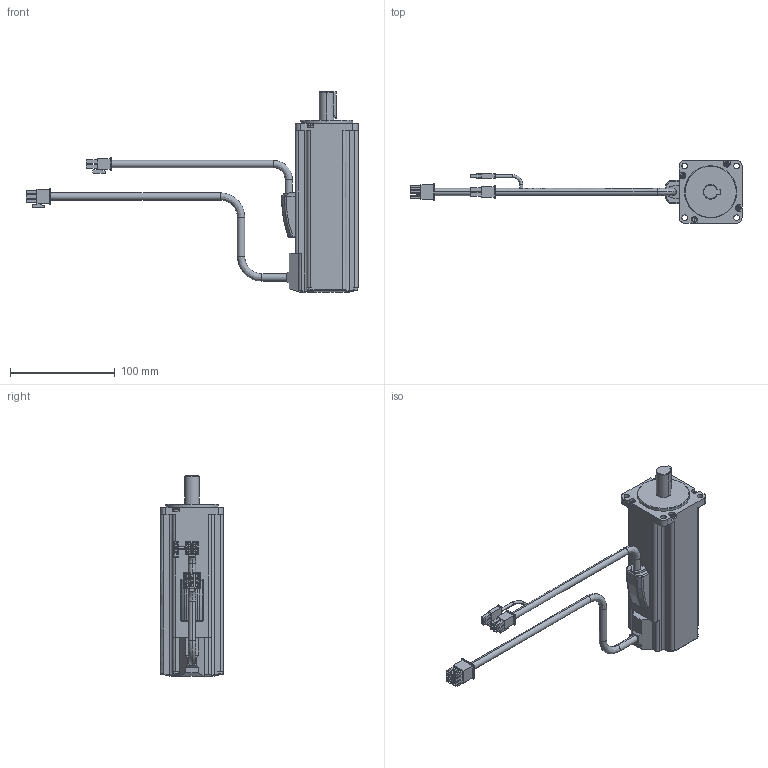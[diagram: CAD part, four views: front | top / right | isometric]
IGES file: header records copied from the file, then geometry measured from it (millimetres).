
Start section:  PTC IGES file: RSMZ-04BA3xT.igs
Global section: file name: RSMZ-04BA3xT.igs; native system: Pro/ENGINEER by Parametric Technology Corporation; preprocessor: 2004440; author: Administrator; organization: Unknown; date: 070904.190553; units: millimetre
Bounding box: 317.7 x 60 x 191.5 mm (x, y, z)
Volume: 542180.6 mm3; surface area: 64554.5 mm2
Topology: 1 solids, 1 shells, 504 faces, 1271 edges, 825 vertices
Faces by surface type: bspline 364, revolution 140
